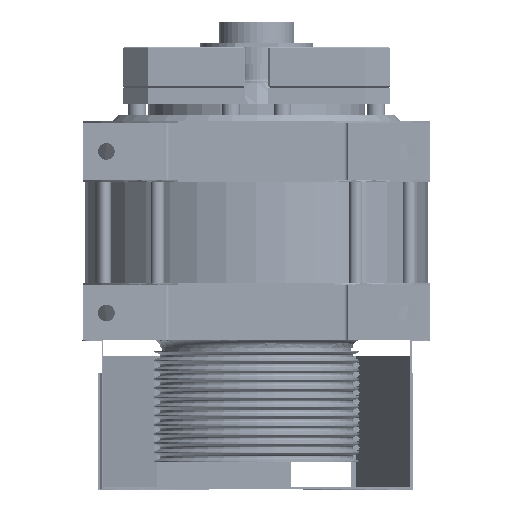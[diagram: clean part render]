
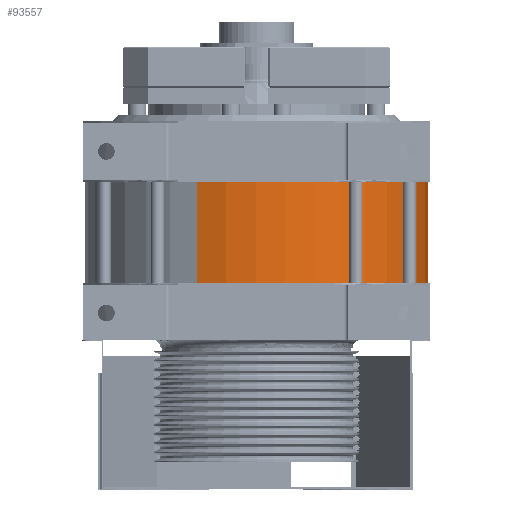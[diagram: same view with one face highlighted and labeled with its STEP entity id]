
A CAD part, front view. The second image highlights one B-rep face of the part: STEP entity #93557.
In plain terms, the highlighted cylindrical face has radius 205 mm (diameter 410 mm), a partial arc.
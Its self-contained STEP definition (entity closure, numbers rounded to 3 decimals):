
#881 = CARTESIAN_POINT ( 'NONE',  ( 0., 0., -213. ) ) ;
#1377 = CIRCLE ( 'NONE', #133600, 205. ) ;
#4488 = CARTESIAN_POINT ( 'NONE',  ( 0., 0., -68. ) ) ;
#7648 = CARTESIAN_POINT ( 'NONE',  ( -71.294, -192.204, -68. ) ) ;
#16666 = VECTOR ( 'NONE', #71523, 1000. ) ;
#17612 = CARTESIAN_POINT ( 'NONE',  ( -71.294, -192.204, -68. ) ) ;
#19568 = VERTEX_POINT ( 'NONE', #178716 ) ;
#21684 = EDGE_CURVE ( 'NONE', #144645, #176513, #21777, .T. ) ;
#21777 = LINE ( 'NONE', #7648, #86301 ) ;
#29476 = ORIENTED_EDGE ( 'NONE', *, *, #161863, .F. ) ;
#34589 = DIRECTION ( 'NONE',  ( 0., 0., -1. ) ) ;
#35514 = FACE_OUTER_BOUND ( 'NONE', #42705, .T. ) ;
#42705 = EDGE_LOOP ( 'NONE', ( #29476, #65261, #77497, #137930 ) ) ;
#47750 = CYLINDRICAL_SURFACE ( 'NONE', #125982, 205. ) ;
#58252 = DIRECTION ( 'NONE',  ( 0., 0., 1. ) ) ;
#62246 = DIRECTION ( 'NONE',  ( 0., 0., -1. ) ) ;
#65261 = ORIENTED_EDGE ( 'NONE', *, *, #143644, .F. ) ;
#71523 = DIRECTION ( 'NONE',  ( 0., 0., -1. ) ) ;
#71985 = VERTEX_POINT ( 'NONE', #101052 ) ;
#77497 = ORIENTED_EDGE ( 'NONE', *, *, #21684, .T. ) ;
#83816 = CARTESIAN_POINT ( 'NONE',  ( -71.294, -192.204, -213. ) ) ;
#85647 = CARTESIAN_POINT ( 'NONE',  ( 71.294, 192.204, -68. ) ) ;
#86301 = VECTOR ( 'NONE', #62246, 1000. ) ;
#86531 = DIRECTION ( 'NONE',  ( 0.348, 0.938, 0. ) ) ;
#87813 = CARTESIAN_POINT ( 'NONE',  ( 0., 0., -68. ) ) ;
#93557 = ADVANCED_FACE ( 'NONE', ( #35514 ), #47750, .T. ) ;
#101052 = CARTESIAN_POINT ( 'NONE',  ( 71.294, 192.204, -213. ) ) ;
#125982 = AXIS2_PLACEMENT_3D ( 'NONE', #4488, #34589, #133408 ) ;
#130185 = DIRECTION ( 'NONE',  ( 0.348, 0.938, 0. ) ) ;
#133408 = DIRECTION ( 'NONE',  ( -0.348, -0.938, 0. ) ) ;
#133600 = AXIS2_PLACEMENT_3D ( 'NONE', #881, #58252, #86531 ) ;
#137930 = ORIENTED_EDGE ( 'NONE', *, *, #177415, .T. ) ;
#143644 = EDGE_CURVE ( 'NONE', #144645, #19568, #151356, .T. ) ;
#144645 = VERTEX_POINT ( 'NONE', #17612 ) ;
#151356 = CIRCLE ( 'NONE', #178475, 205. ) ;
#155349 = LINE ( 'NONE', #85647, #16666 ) ;
#158442 = DIRECTION ( 'NONE',  ( 0., 0., 1. ) ) ;
#161863 = EDGE_CURVE ( 'NONE', #19568, #71985, #155349, .T. ) ;
#176513 = VERTEX_POINT ( 'NONE', #83816 ) ;
#177415 = EDGE_CURVE ( 'NONE', #176513, #71985, #1377, .T. ) ;
#178475 = AXIS2_PLACEMENT_3D ( 'NONE', #87813, #158442, #130185 ) ;
#178716 = CARTESIAN_POINT ( 'NONE',  ( 71.294, 192.204, -68. ) ) ;
